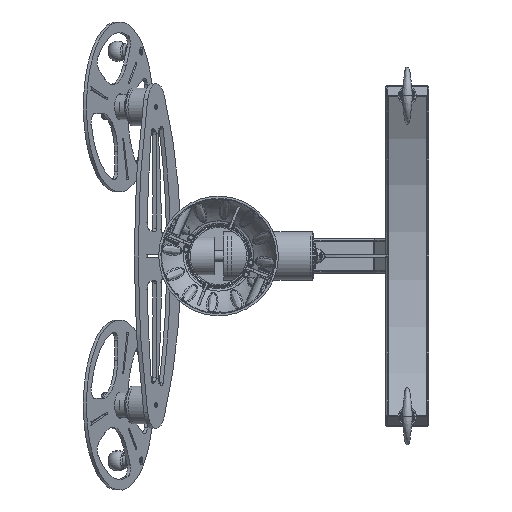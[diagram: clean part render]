
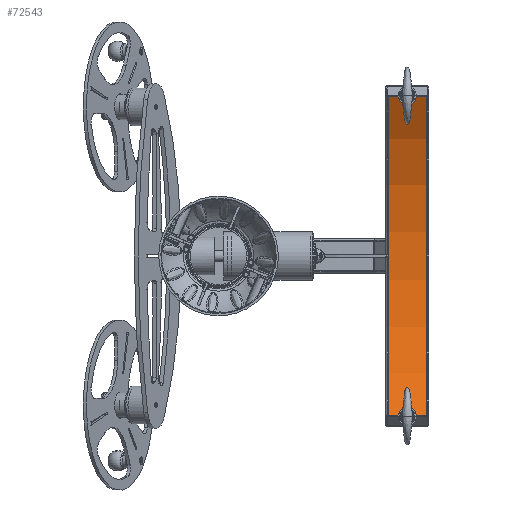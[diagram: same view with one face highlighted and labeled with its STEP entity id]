
A CAD part, front view. The second image highlights one B-rep face of the part: STEP entity #72543.
In plain terms, the highlighted cylindrical face has radius 725 mm (diameter 1450 mm), a partial arc.
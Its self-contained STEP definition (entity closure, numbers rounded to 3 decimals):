
#1208 = AXIS2_PLACEMENT_3D ( 'NONE', #101307, #27816, #18706 ) ;
#3094 = DIRECTION ( 'NONE',  ( -1., 0., 0. ) ) ;
#14871 = DIRECTION ( 'NONE',  ( 0., 0., -1. ) ) ;
#18706 = DIRECTION ( 'NONE',  ( -1., 0., 0. ) ) ;
#22042 = DIRECTION ( 'NONE',  ( 0., 0., -1. ) ) ;
#24229 = EDGE_CURVE ( 'NONE', #84802, #100061, #36860, .T. ) ;
#24417 = EDGE_CURVE ( 'NONE', #108471, #30318, #67989, .T. ) ;
#27816 = DIRECTION ( 'NONE',  ( 0., 0., -1. ) ) ;
#28970 = VECTOR ( 'NONE', #14871, 1000. ) ;
#30318 = VERTEX_POINT ( 'NONE', #87621 ) ;
#31105 = DIRECTION ( 'NONE',  ( -1., 0., 0. ) ) ;
#32549 = CARTESIAN_POINT ( 'NONE',  ( -373.951, 621.116, 45. ) ) ;
#36860 = CIRCLE ( 'NONE', #51548, 725. ) ;
#37307 = ORIENTED_EDGE ( 'NONE', *, *, #39693, .T. ) ;
#38729 = ORIENTED_EDGE ( 'NONE', *, *, #24417, .T. ) ;
#39693 = EDGE_CURVE ( 'NONE', #30318, #100061, #70208, .T. ) ;
#42291 = EDGE_CURVE ( 'NONE', #84802, #108471, #115272, .T. ) ;
#43561 = DIRECTION ( 'NONE',  ( 0., 0., 1. ) ) ;
#49321 = CARTESIAN_POINT ( 'NONE',  ( 0., 0., -45. ) ) ;
#51548 = AXIS2_PLACEMENT_3D ( 'NONE', #102672, #84050, #3094 ) ;
#52899 = ORIENTED_EDGE ( 'NONE', *, *, #24229, .F. ) ;
#53339 = ORIENTED_EDGE ( 'NONE', *, *, #42291, .T. ) ;
#59905 = CARTESIAN_POINT ( 'NONE',  ( -373.951, 621.116, -216.752 ) ) ;
#60575 = CARTESIAN_POINT ( 'NONE',  ( -373.951, 621.116, -45. ) ) ;
#63222 = CYLINDRICAL_SURFACE ( 'NONE', #1208, 725. ) ;
#67989 = CIRCLE ( 'NONE', #92369, 725. ) ;
#70208 = LINE ( 'NONE', #106384, #84349 ) ;
#72543 = ADVANCED_FACE ( 'NONE', ( #105627 ), #63222, .F. ) ;
#84050 = DIRECTION ( 'NONE',  ( 0., 0., -1. ) ) ;
#84349 = VECTOR ( 'NONE', #43561, 1000. ) ;
#84802 = VERTEX_POINT ( 'NONE', #32549 ) ;
#87621 = CARTESIAN_POINT ( 'NONE',  ( 373.951, 621.116, -45. ) ) ;
#92369 = AXIS2_PLACEMENT_3D ( 'NONE', #49321, #22042, #31105 ) ;
#94071 = CARTESIAN_POINT ( 'NONE',  ( 373.951, 621.116, 45. ) ) ;
#98694 = EDGE_LOOP ( 'NONE', ( #52899, #53339, #38729, #37307 ) ) ;
#100061 = VERTEX_POINT ( 'NONE', #94071 ) ;
#101307 = CARTESIAN_POINT ( 'NONE',  ( 0., 0., -216.752 ) ) ;
#102672 = CARTESIAN_POINT ( 'NONE',  ( 0., 0., 45. ) ) ;
#105627 = FACE_OUTER_BOUND ( 'NONE', #98694, .T. ) ;
#106384 = CARTESIAN_POINT ( 'NONE',  ( 373.951, 621.116, -216.752 ) ) ;
#108471 = VERTEX_POINT ( 'NONE', #60575 ) ;
#115272 = LINE ( 'NONE', #59905, #28970 ) ;
